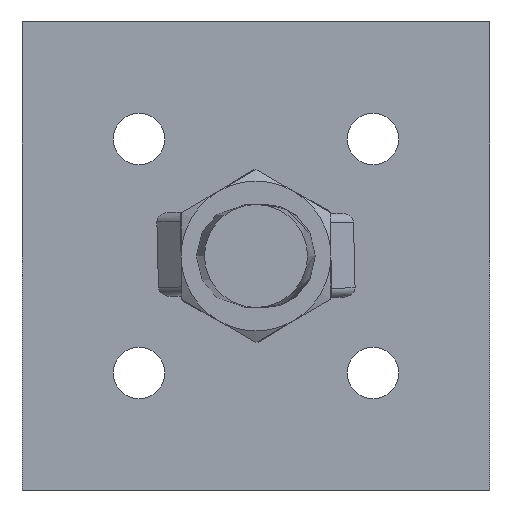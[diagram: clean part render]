
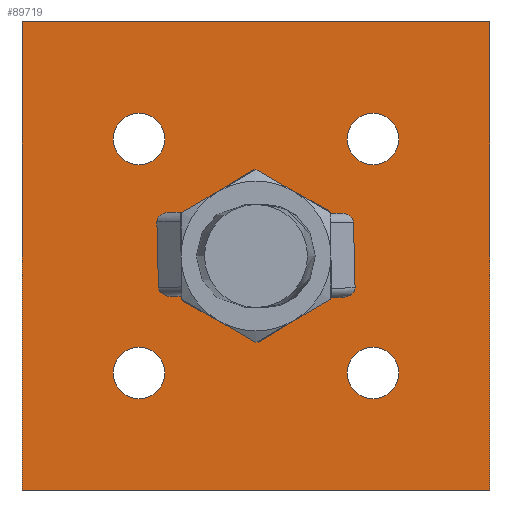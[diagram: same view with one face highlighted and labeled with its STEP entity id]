
A CAD part, front view. The second image highlights one B-rep face of the part: STEP entity #89719.
In plain terms, the highlighted planar face has unit normal (0, -1, 0).
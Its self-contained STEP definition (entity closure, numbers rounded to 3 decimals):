
#873 = ORIENTED_EDGE ( 'NONE', *, *, #20487, .F. ) ;
#1526 = ORIENTED_EDGE ( 'NONE', *, *, #68829, .F. ) ;
#1846 = CARTESIAN_POINT ( 'NONE',  ( 25., 0., -30.5 ) ) ;
#1994 = CIRCLE ( 'NONE', #70899, 5.5 ) ;
#2667 = AXIS2_PLACEMENT_3D ( 'NONE', #86808, #64861, #58571 ) ;
#2832 = EDGE_CURVE ( 'NONE', #11960, #49102, #64102, .T. ) ;
#4228 = CIRCLE ( 'NONE', #35335, 5.5 ) ;
#6297 = CARTESIAN_POINT ( 'NONE',  ( -50., 0., 50. ) ) ;
#8569 = CARTESIAN_POINT ( 'NONE',  ( 50., 0., -50. ) ) ;
#8640 = VERTEX_POINT ( 'NONE', #36574 ) ;
#9035 = FACE_OUTER_BOUND ( 'NONE', #64521, .T. ) ;
#10198 = CIRCLE ( 'NONE', #57586, 5.5 ) ;
#10722 = VERTEX_POINT ( 'NONE', #59867 ) ;
#11440 = ORIENTED_EDGE ( 'NONE', *, *, #89600, .T. ) ;
#11684 = DIRECTION ( 'NONE',  ( 1., 0., 0. ) ) ;
#11960 = VERTEX_POINT ( 'NONE', #77990 ) ;
#12212 = AXIS2_PLACEMENT_3D ( 'NONE', #34194, #41412, #40474 ) ;
#12334 = EDGE_CURVE ( 'NONE', #8640, #10722, #65099, .T. ) ;
#12988 = ORIENTED_EDGE ( 'NONE', *, *, #14269, .T. ) ;
#13966 = EDGE_CURVE ( 'NONE', #49102, #11960, #1994, .T. ) ;
#14117 = DIRECTION ( 'NONE',  ( 0., 0., 1. ) ) ;
#14269 = EDGE_CURVE ( 'NONE', #36469, #40758, #47026, .T. ) ;
#14824 = EDGE_CURVE ( 'NONE', #15773, #77856, #4228, .T. ) ;
#14958 = EDGE_CURVE ( 'NONE', #38515, #67005, #83009, .T. ) ;
#15046 = DIRECTION ( 'NONE',  ( 0., 0., 1. ) ) ;
#15773 = VERTEX_POINT ( 'NONE', #82077 ) ;
#15808 = FACE_BOUND ( 'NONE', #26679, .T. ) ;
#16728 = DIRECTION ( 'NONE',  ( 0., 0., -1. ) ) ;
#17001 = CARTESIAN_POINT ( 'NONE',  ( -50., 0., -50. ) ) ;
#17441 = CARTESIAN_POINT ( 'NONE',  ( 50., 0., 50. ) ) ;
#18587 = EDGE_LOOP ( 'NONE', ( #11440, #48116 ) ) ;
#20487 = EDGE_CURVE ( 'NONE', #34785, #38515, #76171, .T. ) ;
#21921 = DIRECTION ( 'NONE',  ( 0., 1., 0. ) ) ;
#22021 = AXIS2_PLACEMENT_3D ( 'NONE', #78882, #28920, #15046 ) ;
#23669 = FACE_BOUND ( 'NONE', #85936, .T. ) ;
#24896 = ORIENTED_EDGE ( 'NONE', *, *, #67629, .T. ) ;
#25875 = CARTESIAN_POINT ( 'NONE',  ( -25., 0., 25. ) ) ;
#26349 = ORIENTED_EDGE ( 'NONE', *, *, #41972, .T. ) ;
#26679 = EDGE_LOOP ( 'NONE', ( #60952, #26349 ) ) ;
#26826 = ORIENTED_EDGE ( 'NONE', *, *, #2832, .T. ) ;
#27135 = AXIS2_PLACEMENT_3D ( 'NONE', #29243, #79523, #65425 ) ;
#28595 = DIRECTION ( 'NONE',  ( 0., 1., 0. ) ) ;
#28920 = DIRECTION ( 'NONE',  ( 0., 1., 0. ) ) ;
#29243 = CARTESIAN_POINT ( 'NONE',  ( -25., 0., 25. ) ) ;
#29588 = CARTESIAN_POINT ( 'NONE',  ( -25., 0., -25. ) ) ;
#31539 = EDGE_CURVE ( 'NONE', #61260, #42655, #38833, .T. ) ;
#32979 = CARTESIAN_POINT ( 'NONE',  ( -25., 0., -30.5 ) ) ;
#33450 = DIRECTION ( 'NONE',  ( 0., 1., 0. ) ) ;
#34194 = CARTESIAN_POINT ( 'NONE',  ( 25., 0., 25. ) ) ;
#34785 = VERTEX_POINT ( 'NONE', #62092 ) ;
#35335 = AXIS2_PLACEMENT_3D ( 'NONE', #25875, #33450, #83093 ) ;
#35472 = DIRECTION ( 'NONE',  ( 0., 0., 1. ) ) ;
#36469 = VERTEX_POINT ( 'NONE', #71804 ) ;
#36574 = CARTESIAN_POINT ( 'NONE',  ( 0., 0., 11.5 ) ) ;
#38290 = AXIS2_PLACEMENT_3D ( 'NONE', #71649, #21921, #35472 ) ;
#38515 = VERTEX_POINT ( 'NONE', #17001 ) ;
#38833 = CIRCLE ( 'NONE', #12212, 5.5 ) ;
#39837 = VECTOR ( 'NONE', #16728, 1000. ) ;
#40474 = DIRECTION ( 'NONE',  ( 0., 0., 1. ) ) ;
#40758 = VERTEX_POINT ( 'NONE', #1846 ) ;
#40903 = CIRCLE ( 'NONE', #27135, 5.5 ) ;
#41412 = DIRECTION ( 'NONE',  ( 0., 1., 0. ) ) ;
#41972 = EDGE_CURVE ( 'NONE', #10722, #8640, #69341, .T. ) ;
#42655 = VERTEX_POINT ( 'NONE', #87262 ) ;
#43062 = VECTOR ( 'NONE', #11684, 1000. ) ;
#43522 = AXIS2_PLACEMENT_3D ( 'NONE', #81187, #58949, #73690 ) ;
#43567 = ORIENTED_EDGE ( 'NONE', *, *, #14958, .F. ) ;
#43968 = FACE_BOUND ( 'NONE', #72186, .T. ) ;
#46621 = CARTESIAN_POINT ( 'NONE',  ( -50., 0., 50. ) ) ;
#47026 = CIRCLE ( 'NONE', #73928, 5.5 ) ;
#47871 = CARTESIAN_POINT ( 'NONE',  ( 25., 0., -25. ) ) ;
#48116 = ORIENTED_EDGE ( 'NONE', *, *, #31539, .T. ) ;
#49102 = VERTEX_POINT ( 'NONE', #32979 ) ;
#49203 = VECTOR ( 'NONE', #93325, 1000. ) ;
#49970 = EDGE_LOOP ( 'NONE', ( #53247, #24896 ) ) ;
#51976 = ORIENTED_EDGE ( 'NONE', *, *, #13966, .T. ) ;
#53247 = ORIENTED_EDGE ( 'NONE', *, *, #14824, .T. ) ;
#54806 = DIRECTION ( 'NONE',  ( 0., 1., 0. ) ) ;
#57287 = DIRECTION ( 'NONE',  ( 0., 1., 0. ) ) ;
#57586 = AXIS2_PLACEMENT_3D ( 'NONE', #65097, #28595, #14117 ) ;
#58207 = DIRECTION ( 'NONE',  ( 0., 1., 0. ) ) ;
#58571 = DIRECTION ( 'NONE',  ( 0., 0., 1. ) ) ;
#58949 = DIRECTION ( 'NONE',  ( 0., 1., 0. ) ) ;
#59491 = AXIS2_PLACEMENT_3D ( 'NONE', #72650, #58207, #65117 ) ;
#59867 = CARTESIAN_POINT ( 'NONE',  ( 0., 0., -11.5 ) ) ;
#60952 = ORIENTED_EDGE ( 'NONE', *, *, #12334, .T. ) ;
#61260 = VERTEX_POINT ( 'NONE', #89461 ) ;
#61453 = CARTESIAN_POINT ( 'NONE',  ( -50., 0., -50. ) ) ;
#62092 = CARTESIAN_POINT ( 'NONE',  ( 50., 0., -50. ) ) ;
#62505 = ORIENTED_EDGE ( 'NONE', *, *, #78724, .T. ) ;
#63437 = ORIENTED_EDGE ( 'NONE', *, *, #70058, .F. ) ;
#64102 = CIRCLE ( 'NONE', #2667, 5.5 ) ;
#64521 = EDGE_LOOP ( 'NONE', ( #1526, #63437, #43567, #873 ) ) ;
#64861 = DIRECTION ( 'NONE',  ( 0., 1., 0. ) ) ;
#65097 = CARTESIAN_POINT ( 'NONE',  ( 25., 0., 25. ) ) ;
#65099 = CIRCLE ( 'NONE', #59491, 11.5 ) ;
#65117 = DIRECTION ( 'NONE',  ( 0., 0., 1. ) ) ;
#65425 = DIRECTION ( 'NONE',  ( 0., 0., 1. ) ) ;
#67005 = VERTEX_POINT ( 'NONE', #6297 ) ;
#67629 = EDGE_CURVE ( 'NONE', #77856, #15773, #40903, .T. ) ;
#67814 = CIRCLE ( 'NONE', #43522, 5.5 ) ;
#68679 = DIRECTION ( 'NONE',  ( 0., 0., 1. ) ) ;
#68829 = EDGE_CURVE ( 'NONE', #79920, #34785, #69090, .T. ) ;
#69090 = LINE ( 'NONE', #8569, #39837 ) ;
#69286 = DIRECTION ( 'NONE',  ( 0., 0., 1. ) ) ;
#69341 = CIRCLE ( 'NONE', #38290, 11.5 ) ;
#70058 = EDGE_CURVE ( 'NONE', #67005, #79920, #83564, .T. ) ;
#70899 = AXIS2_PLACEMENT_3D ( 'NONE', #29588, #57287, #79559 ) ;
#71649 = CARTESIAN_POINT ( 'NONE',  ( 0., 0., 0. ) ) ;
#71804 = CARTESIAN_POINT ( 'NONE',  ( 25., 0., -19.5 ) ) ;
#72014 = PLANE ( 'NONE',  #22021 ) ;
#72186 = EDGE_LOOP ( 'NONE', ( #26826, #51976 ) ) ;
#72616 = CARTESIAN_POINT ( 'NONE',  ( -50., 0., -50. ) ) ;
#72650 = CARTESIAN_POINT ( 'NONE',  ( 0., 0., 0. ) ) ;
#73228 = FACE_BOUND ( 'NONE', #18587, .T. ) ;
#73690 = DIRECTION ( 'NONE',  ( 0., 0., 1. ) ) ;
#73928 = AXIS2_PLACEMENT_3D ( 'NONE', #47871, #54806, #69286 ) ;
#75456 = FACE_BOUND ( 'NONE', #49970, .T. ) ;
#76171 = LINE ( 'NONE', #72616, #49203 ) ;
#76252 = CARTESIAN_POINT ( 'NONE',  ( -25., 0., 19.5 ) ) ;
#77856 = VERTEX_POINT ( 'NONE', #76252 ) ;
#77990 = CARTESIAN_POINT ( 'NONE',  ( -25., 0., -19.5 ) ) ;
#78724 = EDGE_CURVE ( 'NONE', #40758, #36469, #67814, .T. ) ;
#78882 = CARTESIAN_POINT ( 'NONE',  ( 0., 0., 0. ) ) ;
#79523 = DIRECTION ( 'NONE',  ( 0., 1., 0. ) ) ;
#79559 = DIRECTION ( 'NONE',  ( 0., 0., 1. ) ) ;
#79920 = VERTEX_POINT ( 'NONE', #17441 ) ;
#81187 = CARTESIAN_POINT ( 'NONE',  ( 25., 0., -25. ) ) ;
#82077 = CARTESIAN_POINT ( 'NONE',  ( -25., 0., 30.5 ) ) ;
#83009 = LINE ( 'NONE', #61453, #90842 ) ;
#83093 = DIRECTION ( 'NONE',  ( 0., 0., 1. ) ) ;
#83564 = LINE ( 'NONE', #46621, #43062 ) ;
#85936 = EDGE_LOOP ( 'NONE', ( #12988, #62505 ) ) ;
#86808 = CARTESIAN_POINT ( 'NONE',  ( -25., 0., -25. ) ) ;
#87262 = CARTESIAN_POINT ( 'NONE',  ( 25., 0., 30.5 ) ) ;
#89461 = CARTESIAN_POINT ( 'NONE',  ( 25., 0., 19.5 ) ) ;
#89600 = EDGE_CURVE ( 'NONE', #42655, #61260, #10198, .T. ) ;
#89719 = ADVANCED_FACE ( 'NONE', ( #75456, #73228, #23669, #43968, #15808, #9035 ), #72014, .F. ) ;
#90842 = VECTOR ( 'NONE', #68679, 1000. ) ;
#93325 = DIRECTION ( 'NONE',  ( -1., 0., 0. ) ) ;
